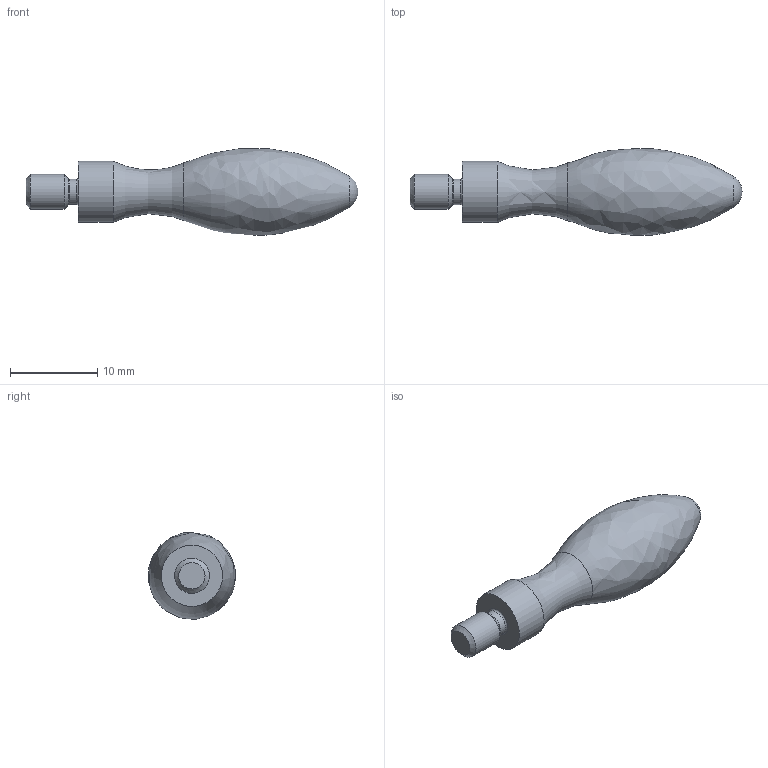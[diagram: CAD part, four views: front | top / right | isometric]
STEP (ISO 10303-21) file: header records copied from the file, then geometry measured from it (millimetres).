
FILE_DESCRIPTION(/* description */ (''),/* implementation_level */ '2;1');
FILE_NAME(/* name */ '',/* time_stamp */ '2026-08-27T17:02:08+09:00',/* author */ ('jhkim'),/* organization */ (''),/* preprocessor_version */ 'ST-DEVELOPER v20.1',/* originating_system */ 'Autodesk Inventor 2027',/* authorisation */ '');
FILE_SCHEMA (('AUTOMOTIVE_DESIGN { 1 0 10303 214 3 1 1 }'));
Length unit declared in the file: millimetre
Products named in the file (1): 핸들
Bounding box: 37.99 x 9.95 x 9.91 mm (x, y, z)
Volume: 1499.3 mm3; surface area: 874.5 mm2
Topology: 1 solids, 1 shells, 12 faces, 25 edges, 16 vertices
Faces by surface type: torus 3, cylinder 3, cone 2, plane 2, bspline 1, sphere 1
Full cylindrical faces by diameter (mm): 2.9 x1, 4 x1, 7 x1
Entity records: 398 total; most frequent: CARTESIAN_POINT 80, DIRECTION 69, ORIENTED_EDGE 50, AXIS2_PLACEMENT_3D 32, EDGE_CURVE 25, CIRCLE 20, VERTEX_POINT 16, EDGE_LOOP 13
